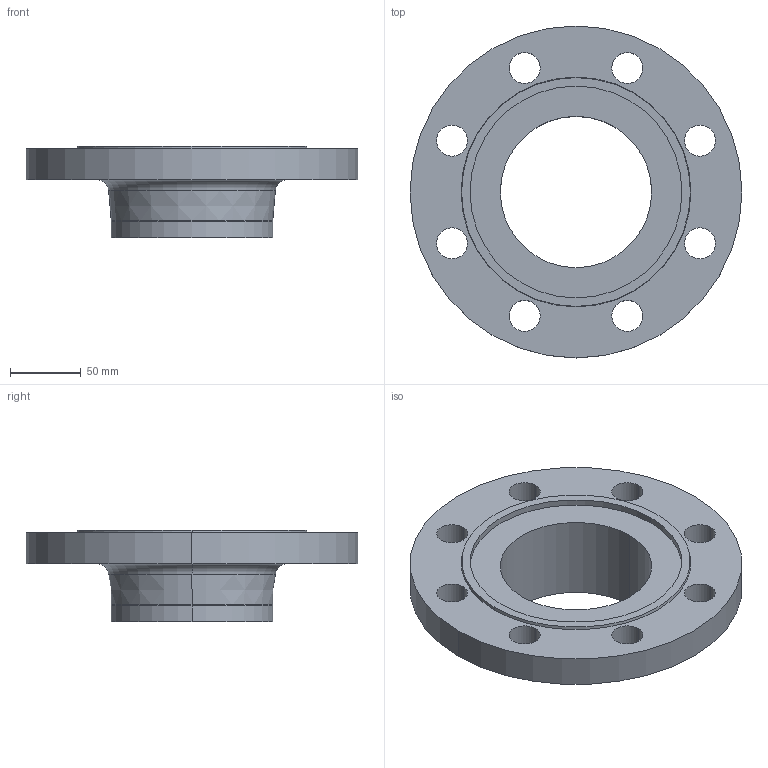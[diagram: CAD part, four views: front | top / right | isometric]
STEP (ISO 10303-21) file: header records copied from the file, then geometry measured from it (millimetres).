
FILE_DESCRIPTION (( 'STEP AP214' ), '1' );
FILE_NAME ('PN40 DN100 Type 11 - Type F Face.STEP', '2019-01-02T00:22:59', ( '' ), ( '' ), 'SwSTEP 2.0', 'SolidWorks 2019', '' );
FILE_SCHEMA (( 'AUTOMOTIVE_DESIGN' ));
Length unit declared in the file: millimetre
Products named in the file (1): PN40 DN100 Type 11 - Type F Face
Bounding box: 235 x 235 x 65 mm (x, y, z)
Volume: 742552.4 mm3; surface area: 127433.1 mm2
Topology: 1 solids, 1 shells, 37 faces, 90 edges, 58 vertices
Faces by surface type: cylinder 24, plane 5, torus 4, cone 4
Entity records: 1188 total; most frequent: DIRECTION 228, CARTESIAN_POINT 186, ORIENTED_EDGE 180, AXIS2_PLACEMENT_3D 100, EDGE_CURVE 90, CIRCLE 62, EDGE_LOOP 58, VERTEX_POINT 58
